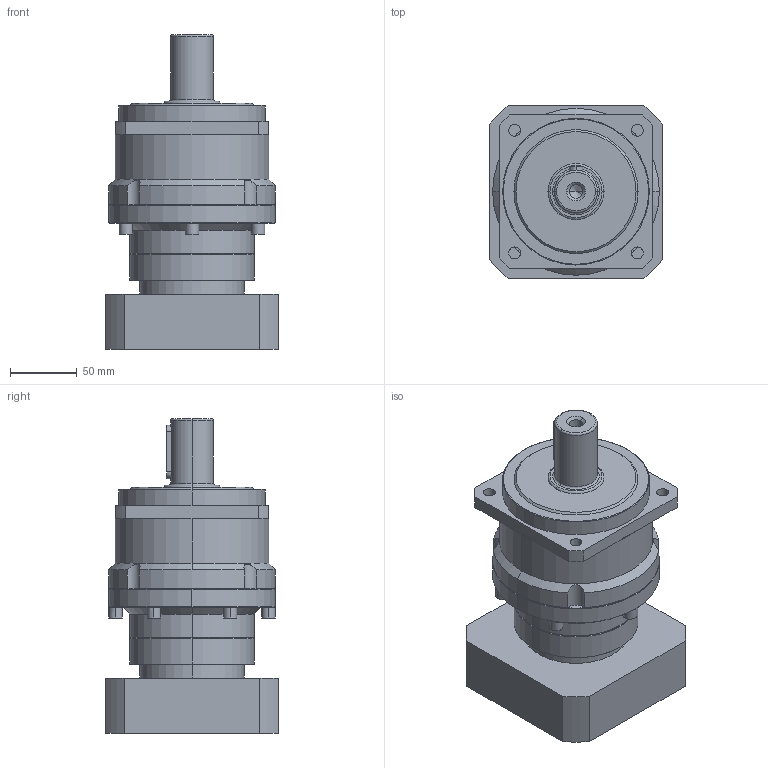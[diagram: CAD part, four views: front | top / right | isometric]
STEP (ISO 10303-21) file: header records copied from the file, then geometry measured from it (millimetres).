
FILE_DESCRIPTION (( 'STEP AP214' ), '1' );
FILE_NAME ('VRB-115-L2-S2-P1 24-110-145-M8.STEP', '2024-01-10T00:51:13', ( '微软用户' ), ( '微软中国' ), 'SwSTEP 2.0', 'SolidWorks 2018', '' );
FILE_SCHEMA (( 'AUTOMOTIVE_DESIGN' ));
Length unit declared in the file: millimetre
Products named in the file (1): VRB-115-L2-S2-P1 24-110-145-M8
Bounding box: 130 x 130 x 236 mm (x, y, z)
Volume: 1900941.2 mm3; surface area: 146634.6 mm2
Topology: 1 solids, 1 shells, 200 faces, 476 edges, 298 vertices
Faces by surface type: plane 93, cylinder 74, cone 25, torus 8
Entity records: 6051 total; most frequent: CARTESIAN_POINT 1210, DIRECTION 1069, ORIENTED_EDGE 948, EDGE_CURVE 474, AXIS2_PLACEMENT_3D 411, VERTEX_POINT 298, VECTOR 247, LINE 247
